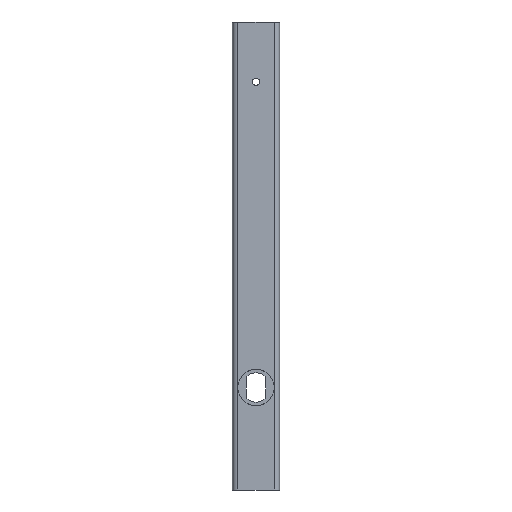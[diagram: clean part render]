
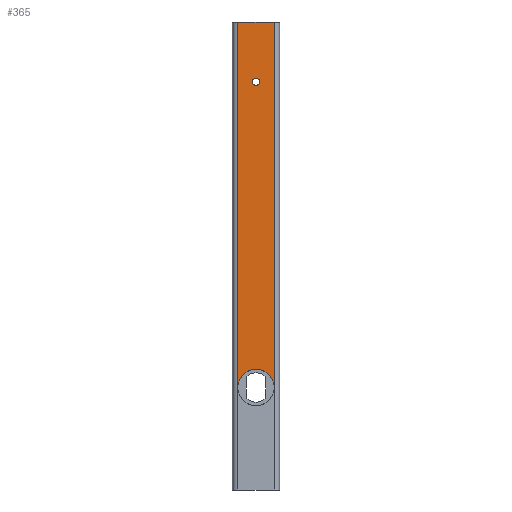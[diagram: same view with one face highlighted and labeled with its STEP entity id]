
A CAD part, left-side view. The second image highlights one B-rep face of the part: STEP entity #365.
In plain terms, the highlighted planar face has unit normal (-1, 0, 0).
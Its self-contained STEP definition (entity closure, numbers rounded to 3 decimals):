
#10 = AXIS2_PLACEMENT_3D ( 'NONE', #60, #731, #737 ) ;
#11 = CARTESIAN_POINT ( 'NONE',  ( -2.066, 12.7, 184.6 ) ) ;
#32 = LINE ( 'NONE', #848, #730 ) ;
#34 = PLANE ( 'NONE',  #39 ) ;
#39 = AXIS2_PLACEMENT_3D ( 'NONE', #420, #1002, #1191 ) ;
#60 = CARTESIAN_POINT ( 'NONE',  ( -2.066, 12.7, 184.6 ) ) ;
#103 = AXIS2_PLACEMENT_3D ( 'NONE', #172, #372, #470 ) ;
#133 = CIRCLE ( 'NONE', #103, 7.75 ) ;
#166 = ORIENTED_EDGE ( 'NONE', *, *, #1154, .T. ) ;
#172 = CARTESIAN_POINT ( 'NONE',  ( -2.066, 12.7, 54.6 ) ) ;
#213 = LINE ( 'NONE', #972, #1145 ) ;
#232 = VERTEX_POINT ( 'NONE', #1155 ) ;
#276 = FACE_BOUND ( 'NONE', #1254, .T. ) ;
#365 = ADVANCED_FACE ( 'NONE', ( #1265, #276 ), #34, .T. ) ;
#372 = DIRECTION ( 'NONE',  ( -1., 0., 0. ) ) ;
#375 = CIRCLE ( 'NONE', #10, 1.5 ) ;
#410 = ORIENTED_EDGE ( 'NONE', *, *, #1114, .T. ) ;
#420 = CARTESIAN_POINT ( 'NONE',  ( -2.066, 20.4, 11. ) ) ;
#470 = DIRECTION ( 'NONE',  ( 0., -1., 0. ) ) ;
#490 = DIRECTION ( 'NONE',  ( 0., 0., 1. ) ) ;
#580 = EDGE_CURVE ( 'NONE', #679, #1252, #375, .T. ) ;
#606 = CARTESIAN_POINT ( 'NONE',  ( -2.066, 5., 210. ) ) ;
#608 = VERTEX_POINT ( 'NONE', #638 ) ;
#610 = DIRECTION ( 'NONE',  ( 1., 0., 0. ) ) ;
#638 = CARTESIAN_POINT ( 'NONE',  ( -2.066, 20.4, 55.479 ) ) ;
#648 = CARTESIAN_POINT ( 'NONE',  ( -2.066, 12.7, 186.1 ) ) ;
#662 = EDGE_CURVE ( 'NONE', #232, #608, #133, .T. ) ;
#679 = VERTEX_POINT ( 'NONE', #648 ) ;
#687 = VECTOR ( 'NONE', #1075, 1000. ) ;
#697 = DIRECTION ( 'NONE',  ( 0., 0., -1. ) ) ;
#709 = ORIENTED_EDGE ( 'NONE', *, *, #1142, .F. ) ;
#712 = EDGE_CURVE ( 'NONE', #1011, #846, #32, .T. ) ;
#728 = LINE ( 'NONE', #1266, #687 ) ;
#730 = VECTOR ( 'NONE', #1150, 1000. ) ;
#731 = DIRECTION ( 'NONE',  ( 1., 0., 0. ) ) ;
#735 = CARTESIAN_POINT ( 'NONE',  ( -2.066, 12.7, 183.1 ) ) ;
#737 = DIRECTION ( 'NONE',  ( 0., 0., -1. ) ) ;
#754 = ORIENTED_EDGE ( 'NONE', *, *, #662, .F. ) ;
#846 = VERTEX_POINT ( 'NONE', #606 ) ;
#848 = CARTESIAN_POINT ( 'NONE',  ( -2.066, 20.4, 210. ) ) ;
#884 = CIRCLE ( 'NONE', #1243, 1.5 ) ;
#907 = ORIENTED_EDGE ( 'NONE', *, *, #580, .T. ) ;
#920 = ORIENTED_EDGE ( 'NONE', *, *, #712, .F. ) ;
#972 = CARTESIAN_POINT ( 'NONE',  ( -2.066, 20.4, 11. ) ) ;
#1002 = DIRECTION ( 'NONE',  ( -1., 0., 0. ) ) ;
#1011 = VERTEX_POINT ( 'NONE', #1195 ) ;
#1075 = DIRECTION ( 'NONE',  ( 0., 0., 1. ) ) ;
#1114 = EDGE_CURVE ( 'NONE', #232, #846, #728, .T. ) ;
#1139 = EDGE_LOOP ( 'NONE', ( #754, #410, #920, #709 ) ) ;
#1142 = EDGE_CURVE ( 'NONE', #608, #1011, #213, .T. ) ;
#1145 = VECTOR ( 'NONE', #490, 1000. ) ;
#1150 = DIRECTION ( 'NONE',  ( 0., -1., 0. ) ) ;
#1154 = EDGE_CURVE ( 'NONE', #1252, #679, #884, .T. ) ;
#1155 = CARTESIAN_POINT ( 'NONE',  ( -2.066, 5., 55.479 ) ) ;
#1191 = DIRECTION ( 'NONE',  ( 0., -1., 0. ) ) ;
#1195 = CARTESIAN_POINT ( 'NONE',  ( -2.066, 20.4, 210. ) ) ;
#1243 = AXIS2_PLACEMENT_3D ( 'NONE', #11, #610, #697 ) ;
#1252 = VERTEX_POINT ( 'NONE', #735 ) ;
#1254 = EDGE_LOOP ( 'NONE', ( #166, #907 ) ) ;
#1265 = FACE_OUTER_BOUND ( 'NONE', #1139, .T. ) ;
#1266 = CARTESIAN_POINT ( 'NONE',  ( -2.066, 5., 11. ) ) ;
